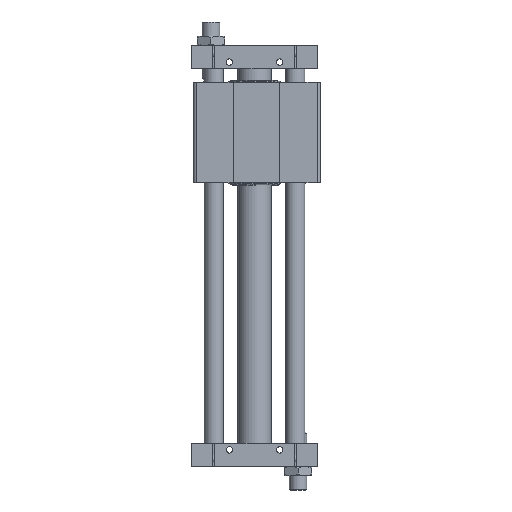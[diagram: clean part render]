
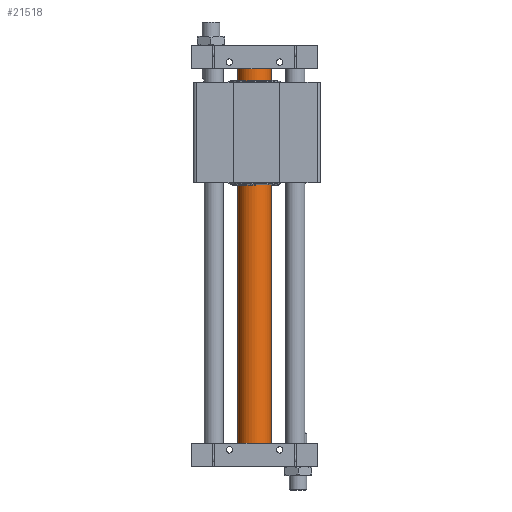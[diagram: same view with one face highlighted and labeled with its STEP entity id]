
A CAD part, front view. The second image highlights one B-rep face of the part: STEP entity #21518.
In plain terms, the highlighted cylindrical face has radius 13.818 mm (diameter 27.635 mm), a full revolution.
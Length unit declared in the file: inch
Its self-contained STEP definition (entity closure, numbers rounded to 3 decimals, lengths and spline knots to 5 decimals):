
#3640 = EDGE_CURVE ( 'NONE', #8642, #8642, #27671, .T. ) ;
#4043 = EDGE_CURVE ( 'NONE', #29868, #29868, #9212, .T. ) ;
#4277 = AXIS2_PLACEMENT_3D ( 'NONE', #22569, #12045, #24847 ) ;
#6454 = EDGE_LOOP ( 'NONE', ( #21390 ) ) ;
#7018 = EDGE_LOOP ( 'NONE', ( #13970 ) ) ;
#7573 = CARTESIAN_POINT ( 'NONE',  ( 0., 0., -0.75 ) ) ;
#8642 = VERTEX_POINT ( 'NONE', #11091 ) ;
#9212 = CIRCLE ( 'NONE', #26561, 0.544 ) ;
#11091 = CARTESIAN_POINT ( 'NONE',  ( -0.544, 0., -12.846 ) ) ;
#12045 = DIRECTION ( 'NONE',  ( 0., 0., 1. ) ) ;
#12504 = DIRECTION ( 'NONE',  ( -1., 0., 0. ) ) ;
#13970 = ORIENTED_EDGE ( 'NONE', *, *, #3640, .T. ) ;
#15834 = CARTESIAN_POINT ( 'NONE',  ( 0., 0., -12.846 ) ) ;
#15898 = AXIS2_PLACEMENT_3D ( 'NONE', #15834, #34580, #12504 ) ;
#17479 = FACE_OUTER_BOUND ( 'NONE', #7018, .T. ) ;
#21057 = DIRECTION ( 'NONE',  ( 0., 0., -1. ) ) ;
#21390 = ORIENTED_EDGE ( 'NONE', *, *, #4043, .T. ) ;
#21518 = ADVANCED_FACE ( 'NONE', ( #17479, #27479 ), #22049, .T. ) ;
#21956 = CARTESIAN_POINT ( 'NONE',  ( 0.544, 0., -0.75 ) ) ;
#22049 = CYLINDRICAL_SURFACE ( 'NONE', #4277, 0.544 ) ;
#22569 = CARTESIAN_POINT ( 'NONE',  ( 0., 0., -13.096 ) ) ;
#24847 = DIRECTION ( 'NONE',  ( 1., 0., 0. ) ) ;
#26561 = AXIS2_PLACEMENT_3D ( 'NONE', #7573, #21057, #31413 ) ;
#27479 = FACE_OUTER_BOUND ( 'NONE', #6454, .T. ) ;
#27671 = CIRCLE ( 'NONE', #15898, 0.544 ) ;
#29868 = VERTEX_POINT ( 'NONE', #21956 ) ;
#31413 = DIRECTION ( 'NONE',  ( 1., 0., 0. ) ) ;
#34580 = DIRECTION ( 'NONE',  ( 0., 0., 1. ) ) ;
